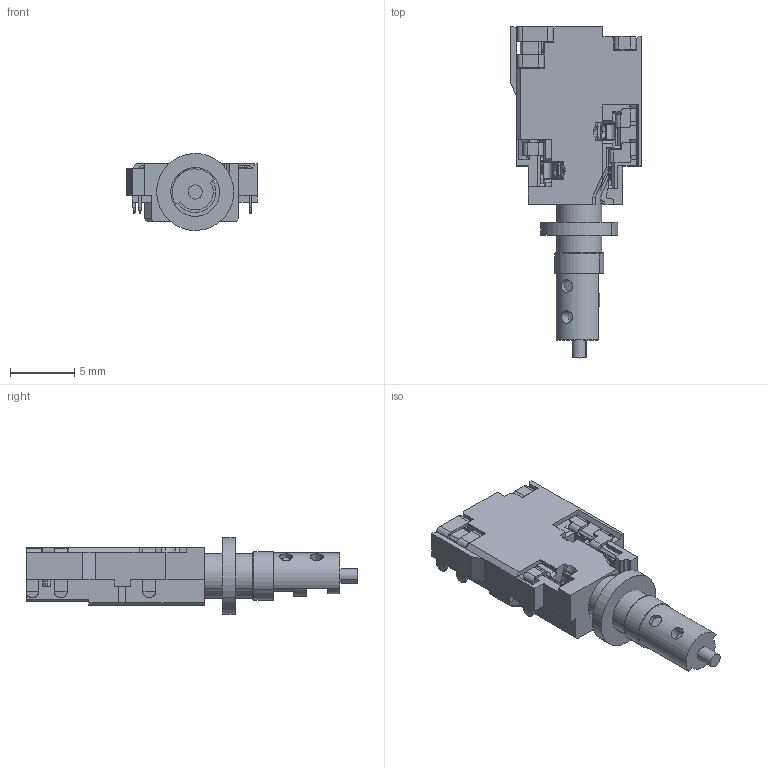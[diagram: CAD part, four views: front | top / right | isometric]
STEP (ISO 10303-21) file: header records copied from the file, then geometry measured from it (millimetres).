
FILE_DESCRIPTION((''),'2;1');
FILE_NAME('_0_80__ASM','2021-01-12T',('zhangjinhua'),(''),'PRO/ENGINEER BY PARAMETRIC TECHNOLOGY CORPORATION, 2014000','PRO/ENGINEER BY PARAMETRIC TECHNOLOGY CORPORATION, 2014000','');
FILE_SCHEMA(('CONFIG_CONTROL_DESIGN'));
Length unit declared in the file: millimetre
Products named in the file (5): 3_5MM_PLUG; PCB; 3D__; _0_80___ASM; _0_80__ASM
Assembly tree (4 placements, depth 3):
  _0_80__ASM
    _0_80___ASM
      3_5MM_PLUG
      PCB
      3D__
Bounding box: 10.2 x 25.85 x 5.99 mm (x, y, z)
Volume: 542.9 mm3; surface area: 1400.9 mm2
Topology: 2 solids, 2 shells, 940 faces, 2686 edges, 1740 vertices
Faces by surface type: plane 617, cylinder 242, bspline 29, cone 25, torus 15, sphere 12
Entity records: 31537 total; most frequent: CARTESIAN_POINT 6889, ORIENTED_EDGE 5284, DIRECTION 4888, EDGE_CURVE 2642, VECTOR 1956, LINE 1956, VERTEX_POINT 1703, AXIS2_PLACEMENT_3D 1466
